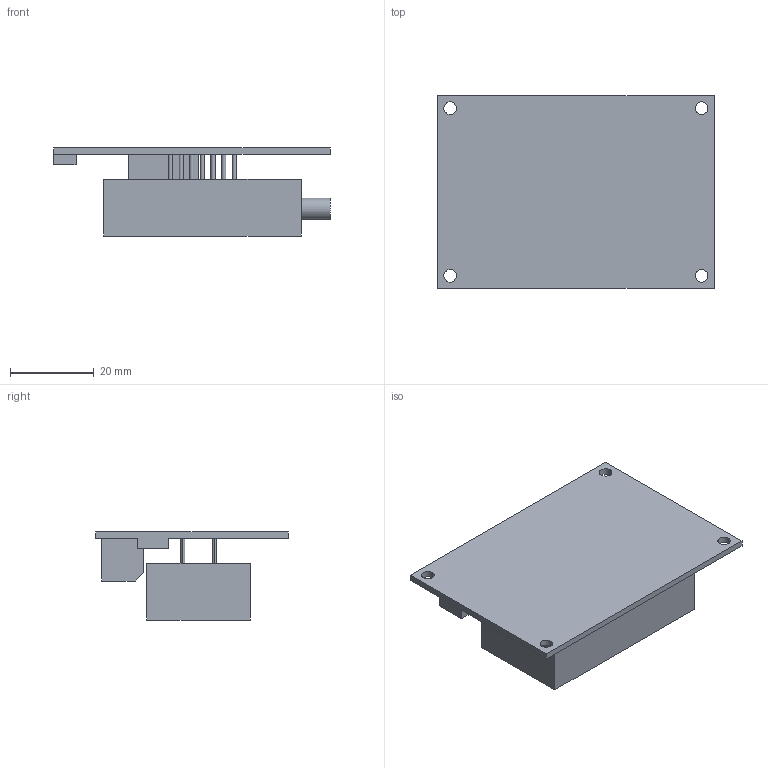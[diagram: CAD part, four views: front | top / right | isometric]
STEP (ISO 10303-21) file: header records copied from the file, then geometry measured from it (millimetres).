
FILE_DESCRIPTION (( 'STEP AP214' ), '1' );
FILE_NAME ('?????.STEP', '2024-07-26T20:13:08', ( 'Windows User' ), ( '' ), 'SwSTEP 2.0', 'SolidWorks 2023', '' );
FILE_SCHEMA (( 'AUTOMOTIVE_DESIGN' ));
Length unit declared in the file: millimetre
Products named in the file (1): 芯片简化版
Bounding box: 66.06 x 46 x 21 mm (x, y, z)
Volume: 22191.6 mm3; surface area: 11612.5 mm2
Topology: 1 solids, 1 shells, 61 faces, 165 edges, 110 vertices
Faces by surface type: cylinder 38, plane 23
Entity records: 2046 total; most frequent: DIRECTION 365, CARTESIAN_POINT 337, ORIENTED_EDGE 330, EDGE_CURVE 165, AXIS2_PLACEMENT_3D 138, VERTEX_POINT 110, EDGE_LOOP 99, LINE 89
